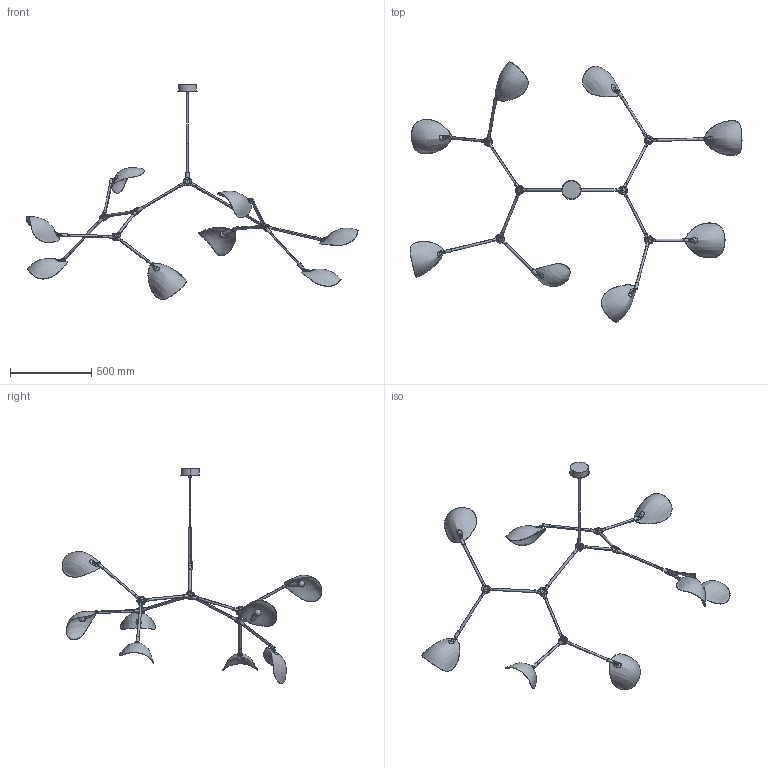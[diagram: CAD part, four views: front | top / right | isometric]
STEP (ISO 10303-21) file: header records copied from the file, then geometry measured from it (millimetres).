
FILE_DESCRIPTION(/* description */ (''),/* implementation_level */ '2;1');
FILE_NAME(/* name */ 'Stingray Chandelier Grande',/* time_stamp */ '2025-10-28T10:51:52+01:00',/* author */ (''),/* organization */ (''),/* preprocessor_version */ 'ST-DEVELOPER v16.5',/* originating_system */ 'Rhino 7.38',/* authorisation */ '');
FILE_SCHEMA (('CONFIG_CONTROL_DESIGN'));
Products named in the file (4): Document; Block 01 01; Block 02 01; Block 03 01
Assembly tree (6 placements, depth 2):
  Document
    Block 01 01  x2
    Block 02 01  x2
    Block 03 01  x2
Bounding box: 2039.43 x 1597.09 x 1319.68 mm (x, y, z)
Volume: 1819191 mm3; surface area: 1467341.7 mm2
Topology: 93 solids, 325 shells, 744 faces, 1926 edges, 1568 vertices
Faces by surface type: plane 318, cylinder 288, bspline 138
Entity records: 373480 total; most frequent: CARTESIAN_POINT 361626, ORIENTED_EDGE 2618, EDGE_CURVE 1764, VERTEX_POINT 1438, B_SPLINE_CURVE_WITH_KNOTS 950, EDGE_LOOP 729, ADVANCED_FACE 715, FACE_OUTER_BOUND 715
